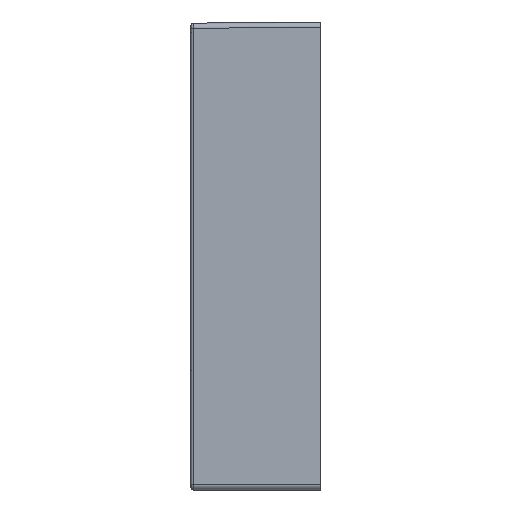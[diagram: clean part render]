
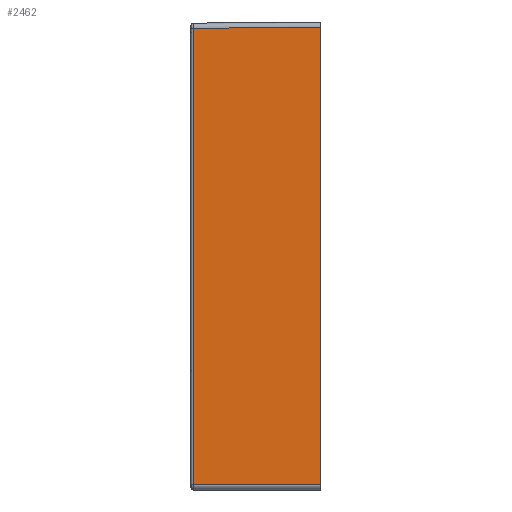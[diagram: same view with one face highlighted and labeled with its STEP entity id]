
A CAD part, left-side view. The second image highlights one B-rep face of the part: STEP entity #2462.
In plain terms, the highlighted planar face has unit normal (-1, 0.009, 0).
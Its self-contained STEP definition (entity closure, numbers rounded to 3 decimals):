
#553 = VERTEX_POINT ( 'NONE', #14900 ) ;
#712 = VERTEX_POINT ( 'NONE', #8833 ) ;
#1185 = AXIS2_PLACEMENT_3D ( 'NONE', #4467, #13208, #2840 ) ;
#1424 = ORIENTED_EDGE ( 'NONE', *, *, #3097, .T. ) ;
#2462 = ADVANCED_FACE ( 'NONE', ( #10514 ), #21637, .T. ) ;
#2691 = DIRECTION ( 'NONE',  ( 0., 0., 1. ) ) ;
#2781 = EDGE_CURVE ( 'NONE', #4732, #553, #12969, .T. ) ;
#2840 = DIRECTION ( 'NONE',  ( -0.009, -1., 0. ) ) ;
#3097 = EDGE_CURVE ( 'NONE', #712, #11714, #11866, .T. ) ;
#3458 = LINE ( 'NONE', #15365, #17206 ) ;
#3690 = EDGE_CURVE ( 'NONE', #11714, #4732, #3458, .T. ) ;
#4259 = VECTOR ( 'NONE', #2691, 1000. ) ;
#4330 = CARTESIAN_POINT ( 'NONE',  ( -298.926, 123.017, -195. ) ) ;
#4467 = CARTESIAN_POINT ( 'NONE',  ( -300., 0., 0. ) ) ;
#4732 = VERTEX_POINT ( 'NONE', #20847 ) ;
#6024 = LINE ( 'NONE', #9595, #7687 ) ;
#6553 = CARTESIAN_POINT ( 'NONE',  ( -298.926, 123.017, -195. ) ) ;
#6689 = VECTOR ( 'NONE', #21989, 1000. ) ;
#7687 = VECTOR ( 'NONE', #7869, 1000. ) ;
#7749 = ORIENTED_EDGE ( 'NONE', *, *, #2781, .T. ) ;
#7869 = DIRECTION ( 'NONE',  ( 0.009, 1., -0.009 ) ) ;
#8633 = DIRECTION ( 'NONE',  ( -0.009, -1., 0. ) ) ;
#8833 = CARTESIAN_POINT ( 'NONE',  ( -298.926, 123.017, 243.927 ) ) ;
#9595 = CARTESIAN_POINT ( 'NONE',  ( -299.981, 2.138, 244.982 ) ) ;
#10470 = EDGE_LOOP ( 'NONE', ( #13948, #1424, #11389, #7749 ) ) ;
#10514 = FACE_OUTER_BOUND ( 'NONE', #10470, .T. ) ;
#11389 = ORIENTED_EDGE ( 'NONE', *, *, #3690, .T. ) ;
#11714 = VERTEX_POINT ( 'NONE', #4330 ) ;
#11866 = LINE ( 'NONE', #6553, #6689 ) ;
#12969 = LINE ( 'NONE', #13044, #4259 ) ;
#13044 = CARTESIAN_POINT ( 'NONE',  ( -300., 0., 0. ) ) ;
#13208 = DIRECTION ( 'NONE',  ( -1., 0.009, 0. ) ) ;
#13948 = ORIENTED_EDGE ( 'NONE', *, *, #18850, .T. ) ;
#14900 = CARTESIAN_POINT ( 'NONE',  ( -300., 0., 245. ) ) ;
#15365 = CARTESIAN_POINT ( 'NONE',  ( -300., 0., -195. ) ) ;
#17206 = VECTOR ( 'NONE', #8633, 1000. ) ;
#18850 = EDGE_CURVE ( 'NONE', #553, #712, #6024, .T. ) ;
#20847 = CARTESIAN_POINT ( 'NONE',  ( -300., 0., -195. ) ) ;
#21637 = PLANE ( 'NONE',  #1185 ) ;
#21989 = DIRECTION ( 'NONE',  ( 0., 0., -1. ) ) ;
